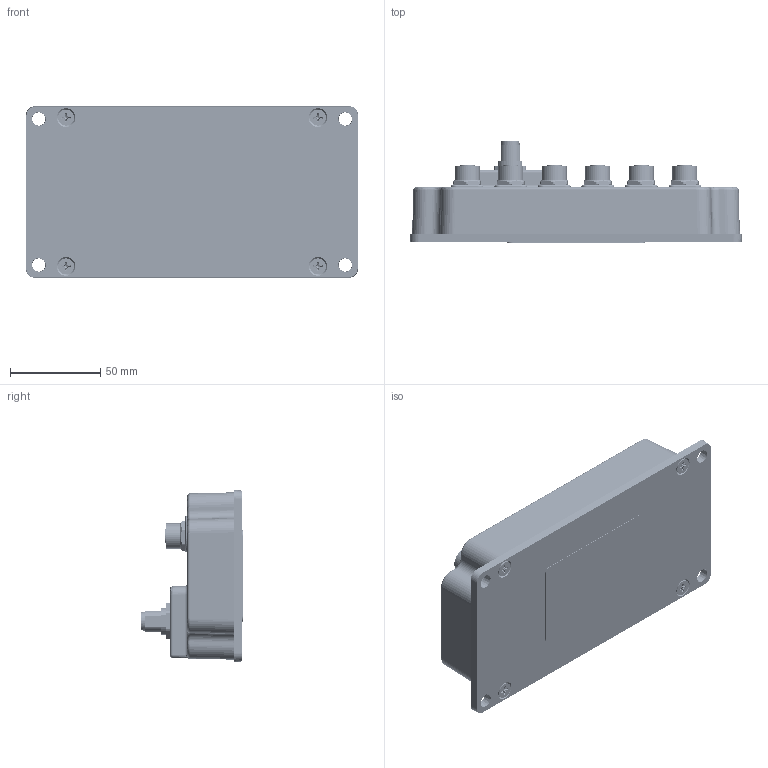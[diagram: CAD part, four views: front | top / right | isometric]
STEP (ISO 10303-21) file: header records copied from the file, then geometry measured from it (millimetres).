
FILE_DESCRIPTION(/* description */ (''),/* implementation_level */ '2;1');
FILE_NAME(/* name */ 'S:\Projects\12STG-CAN, AX200100, Proj_16010\UNIT ASSEMBLY\RELEASED\P2\AX200102.stp',/* time_stamp */ '2020-02-06T16:51:09-05:00',/* author */ ('tfisher'),/* organization */ (''),/* preprocessor_version */ 'ST-DEVELOPER v15.2',/* originating_system */ 'Autodesk Inventor 2014',/* authorisation */ '');
FILE_SCHEMA (('AUTOMOTIVE_DESIGN { 1 0 10303 214 3 1 1 }'));
Products named in the file (1): FG-AX200102 for STEP
Bounding box: 184.15 x 56.22 x 95.25 mm (x, y, z)
Volume: 195175 mm3; surface area: 123078.1 mm2
Topology: 2 solids, 2 shells, 5912 faces, 15781 edges, 10288 vertices
Faces by surface type: plane 2907, bspline 1453, cylinder 1138, cone 246, torus 98, sphere 70
Full cylindrical faces by diameter (mm): 0.8 x48, 1 x5, 1.2 x5, 1.3 x48, 2.2 x6, 2.642 x13, 3.251 x7, 3.505 x4, 3.861 x13, 4.75 x4, 5.004 x13, 8.15 x6, 8.3 x1, 8.357 x6, 8.9 x4, 10.2 x1, 10.5 x1, 10.92 x6, 11 x1, 13.8 x1, 14 x6, 15.1 x1, 20.625 x1
Entity records: 225842 total; most frequent: CARTESIAN_POINT 83889, ORIENTED_EDGE 30224, DIRECTION 23777, EDGE_CURVE 15112, VERTEX_POINT 10106, LINE 9125, VECTOR 9125, AXIS2_PLACEMENT_3D 7326
